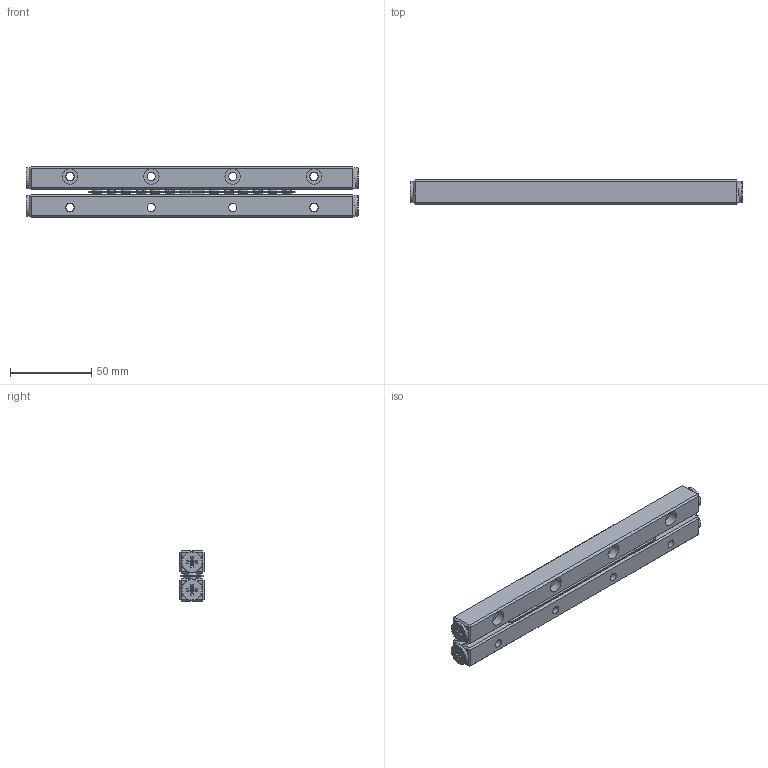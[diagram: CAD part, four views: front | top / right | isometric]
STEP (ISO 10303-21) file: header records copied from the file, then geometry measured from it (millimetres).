
FILE_DESCRIPTION (( 'STEP AP203' ), '1' );
FILE_NAME ('GRG06-0200-模糊化軌道組.STEP', '2022-11-02T02:01:41', ( '' ), ( '' ), 'SwSTEP 2.0', 'SolidWorks 2019', '' );
FILE_SCHEMA (( 'CONFIG_CONTROL_DESIGN' ));
Length unit declared in the file: millimetre
Products named in the file (1): GRG06-0200-模糊化軌道組
Bounding box: 204 x 15 x 31 mm (x, y, z)
Volume: 79245.7 mm3; surface area: 32090 mm2
Topology: 3 solids, 7 shells, 396 faces, 976 edges, 624 vertices
Faces by surface type: plane 302, cylinder 50, torus 32, cone 12
Full cylindrical faces by diameter (mm): 4.25 x4, 5.1 x8, 9.5 x8, 13 x4
Entity records: 11523 total; most frequent: CARTESIAN_POINT 2583, ORIENTED_EDGE 1816, DIRECTION 1722, EDGE_CURVE 908, LINE 632, VECTOR 632, VERTEX_POINT 600, AXIS2_PLACEMENT_3D 545
